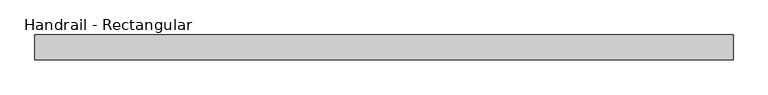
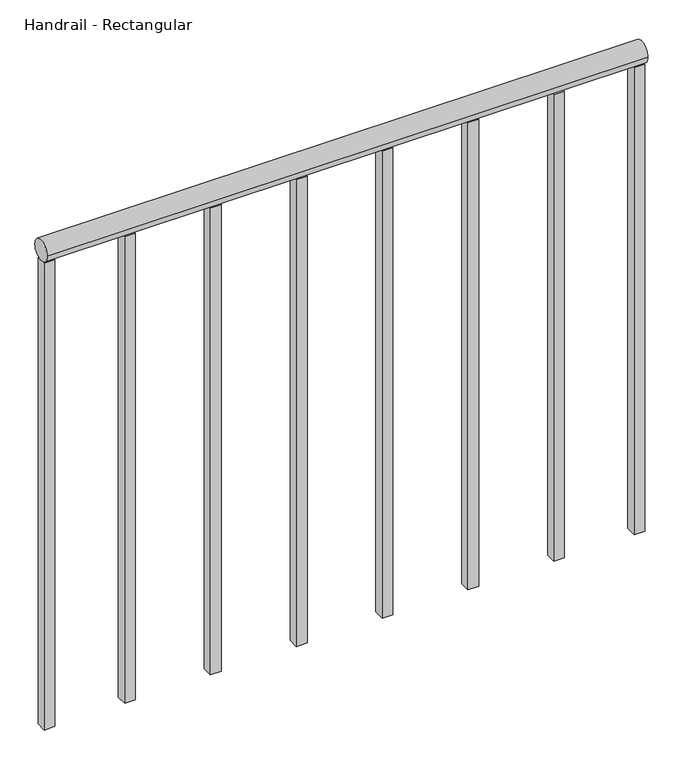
"""IFC4 building model written with IfcOpenShell, lengths in millimetres: railing geometry, Handrail - Rectangular."""

from ifc_helpers import new_model, si_unit, point, frame, frame_2d, origin, place, context, project, spatial, polyline, circle_curve, trimmed, segment, composite_curve, outline, extrude, source, transform, mapped, element, save


def handrail_rectangular_17584c85(model_context):
    return source(origin(), model_context, "Body", "SweptSolid", [
        extrude(outline(composite_curve([segment(trimmed(circle_curve(frame_2d((-35553.1683133, 10039.35)), 19.05), [point((-35572.2183133, 10039.35))], [point((-35534.1183133, 10039.35))], False, "CARTESIAN"), True, "CONTINUOUS"), segment(trimmed(circle_curve(frame_2d((-35553.1683133, 10039.35)), 19.05), [point((-35534.1183133, 10039.35))], [point((-35572.2183133, 10039.35))], False, "CARTESIAN"), True, "CONTINUOUS")], self_intersect=False)), frame((-31964.2839563, 0.0, 0.0), z_axis=(1.0, 0.0, 0.0), x_axis=(0.0, 1.0, 0.0)), (0.0, 0.0, 1.0), 1066.8),
        extrude(outline(polyline([(-31802.3589563, -35543.6433133), (-31802.3589563, -35562.6933133), (-31821.4089563, -35562.6933133), (-31821.4089563, -35543.6433133), (-31802.3589563, -35543.6433133)])), frame((0.0, 0.0, 9144.0), z_axis=(0.0, 0.0, 1.0), x_axis=(1.0, 0.0, 0.0)), (0.0, 0.0, 1.0), 876.3),
        extrude(outline(polyline([(-31649.9589563, -35543.6433133), (-31649.9589563, -35562.6933133), (-31669.0089563, -35562.6933133), (-31669.0089563, -35543.6433133), (-31649.9589563, -35543.6433133)])), frame((0.0, 0.0, 9144.0), z_axis=(0.0, 0.0, 1.0), x_axis=(1.0, 0.0, 0.0)), (0.0, 0.0, 1.0), 876.3),
        extrude(outline(polyline([(-31497.5589563, -35543.6433133), (-31497.5589563, -35562.6933133), (-31516.6089563, -35562.6933133), (-31516.6089563, -35543.6433133), (-31497.5589563, -35543.6433133)])), frame((0.0, 0.0, 9144.0), z_axis=(0.0, 0.0, 1.0), x_axis=(1.0, 0.0, 0.0)), (0.0, 0.0, 1.0), 876.3),
        extrude(outline(polyline([(-31345.1589563, -35543.6433133), (-31345.1589563, -35562.6933133), (-31364.2089563, -35562.6933133), (-31364.2089563, -35543.6433133), (-31345.1589563, -35543.6433133)])), frame((0.0, 0.0, 9144.0), z_axis=(0.0, 0.0, 1.0), x_axis=(1.0, 0.0, 0.0)), (0.0, 0.0, 1.0), 876.3),
        extrude(outline(polyline([(-31192.7589563, -35543.6433133), (-31192.7589563, -35562.6933133), (-31211.8089563, -35562.6933133), (-31211.8089563, -35543.6433133), (-31192.7589563, -35543.6433133)])), frame((0.0, 0.0, 9144.0), z_axis=(0.0, 0.0, 1.0), x_axis=(1.0, 0.0, 0.0)), (0.0, 0.0, 1.0), 876.3),
        extrude(outline(polyline([(-31040.3589563, -35543.6433133), (-31040.3589563, -35562.6933133), (-31059.4089563, -35562.6933133), (-31059.4089563, -35543.6433133), (-31040.3589563, -35543.6433133)])), frame((0.0, 0.0, 9144.0), z_axis=(0.0, 0.0, 1.0), x_axis=(1.0, 0.0, 0.0)), (0.0, 0.0, 1.0), 876.3),
        extrude(outline(polyline([(-31945.2339563, -35543.6433133), (-31945.2339563, -35562.6933133), (-31964.2839563, -35562.6933133), (-31964.2839563, -35543.6433133), (-31945.2339563, -35543.6433133)])), frame((0.0, 0.0, 9144.0), z_axis=(0.0, 0.0, 1.0), x_axis=(1.0, 0.0, 0.0)), (0.0, 0.0, 1.0), 876.3),
        extrude(outline(polyline([(-30897.4839563, -35543.6433133), (-30897.4839563, -35562.6933133), (-30916.5339563, -35562.6933133), (-30916.5339563, -35543.6433133), (-30897.4839563, -35543.6433133)])), frame((0.0, 0.0, 9144.0), z_axis=(0.0, 0.0, 1.0), x_axis=(1.0, 0.0, 0.0)), (0.0, 0.0, 1.0), 876.3),
    ])


if __name__ == "__main__":
    model = new_model("IFC4")
    model_context = context("Model", 3, world=origin())
    ifc_project = project(units=[si_unit("LENGTHUNIT", "METRE", prefix="MILLI")], contexts=[model_context])
    site = spatial("IfcSite", under=ifc_project)
    building = spatial("IfcBuilding", under=site)
    placement = place(None, origin())
    handrail_rectangular_shape = handrail_rectangular_17584c85(model_context)
    element("IfcRailing", 1, ObjectType="Handrail - Rectangular", at=placement, inside=building, context=model_context, shape_type="MappedRepresentation", body=[
        mapped(handrail_rectangular_shape, transform((0.0, 0.0, 0.0), x_axis=(1.0, 0.0, 0.0), y_axis=(0.0, 1.0, 0.0), z_axis=(0.0, 0.0, 1.0))),
    ])
    save(model, "model.ifc")
